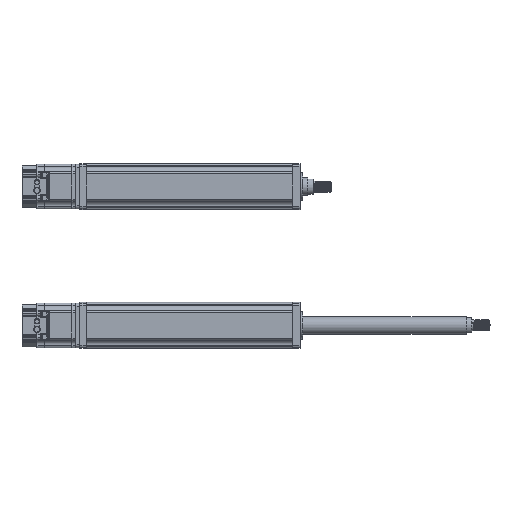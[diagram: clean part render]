
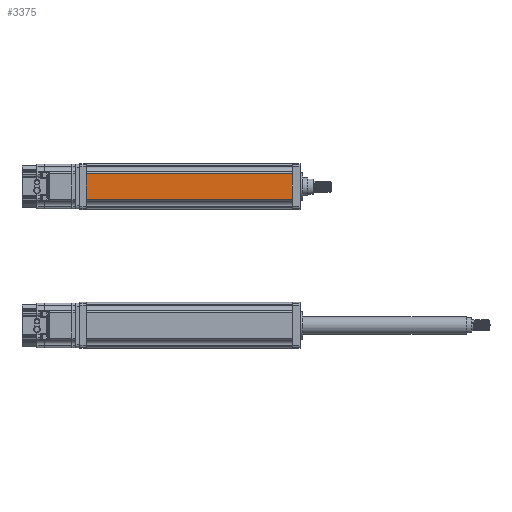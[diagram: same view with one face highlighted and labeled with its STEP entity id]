
A CAD part, top view. The second image highlights one B-rep face of the part: STEP entity #3375.
In plain terms, the highlighted planar face has unit normal (0, 0, 1).
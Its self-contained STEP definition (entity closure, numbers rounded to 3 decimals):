
#3375=ADVANCED_FACE('',(#7813),#7814,.F.);
#7813=FACE_OUTER_BOUND('',#16335,.T.);
#7814=PLANE('',#16336);
#16335=EDGE_LOOP('',(#32321,#32322,#32323,#32324));
#16336=AXIS2_PLACEMENT_3D('',#32325,#32326,#32327);
#32321=ORIENTED_EDGE('',*,*,#45575,.F.);
#32322=ORIENTED_EDGE('',*,*,#47703,.F.);
#32323=ORIENTED_EDGE('',*,*,#47704,.F.);
#32324=ORIENTED_EDGE('',*,*,#47705,.F.);
#32325=CARTESIAN_POINT('',(604.0,182.885,13.693));
#32326=DIRECTION('',(0.,0.,-1.0));
#32327=DIRECTION('',(1.0,0.,0.));
#45575=EDGE_CURVE('',#52977,#52979,#52980,.T.);
#47703=EDGE_CURVE('',#56550,#52977,#56551,.T.);
#47704=EDGE_CURVE('',#56552,#56550,#56553,.T.);
#47705=EDGE_CURVE('',#52979,#56552,#56554,.T.);
#52977=VERTEX_POINT('',#63774);
#52979=VERTEX_POINT('',#63776);
#52980=LINE('',#63777,#63778);
#56550=VERTEX_POINT('',#81403);
#56551=LINE('',#81404,#81405);
#56552=VERTEX_POINT('',#81406);
#56553=LINE('',#81407,#81408);
#56554=LINE('',#81409,#81410);
#63774=CARTESIAN_POINT('',(864.0,150.885,13.693));
#63776=CARTESIAN_POINT('',(604.0,150.885,13.693));
#63777=CARTESIAN_POINT('',(734.0,150.885,13.693));
#63778=VECTOR('',#106254,1.625);
#81403=CARTESIAN_POINT('',(864.0,182.885,13.693));
#81404=CARTESIAN_POINT('',(864.0,166.885,13.693));
#81405=VECTOR('',#108643,1.0);
#81406=CARTESIAN_POINT('',(604.0,182.885,13.693));
#81407=CARTESIAN_POINT('',(734.0,182.885,13.693));
#81408=VECTOR('',#108644,1.625);
#81409=CARTESIAN_POINT('',(604.0,166.885,13.693));
#81410=VECTOR('',#108645,1.0);
#106254=DIRECTION('',(-1.0,0.,0.));
#108643=DIRECTION('',(0.,-1.0,0.0));
#108644=DIRECTION('',(1.0,0.,0.));
#108645=DIRECTION('',(0.,1.0,0.0));
